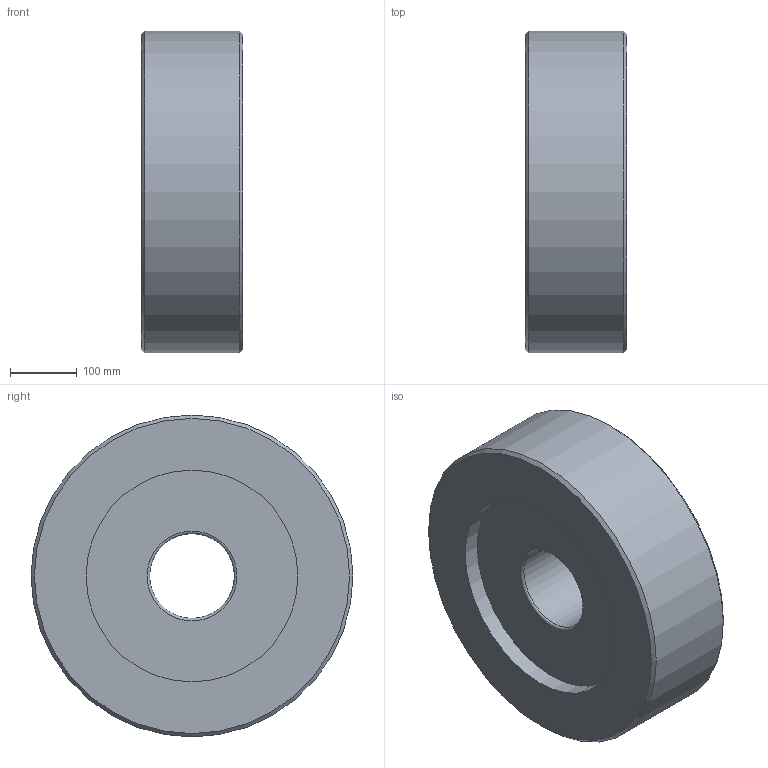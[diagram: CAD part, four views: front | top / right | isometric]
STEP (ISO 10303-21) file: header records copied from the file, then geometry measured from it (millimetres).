
FILE_DESCRIPTION((''),'1');
FILE_NAME('H:/図庫/国内ﾕﾆｯﾄ/ｶﾀﾛｸﾞ/樹脂巻き/ホームページ用ＣＡＤ図面/update用/3D/', '2017-07-13T04:44:02',(''), (''), 'KCM Version 1.1.1442.0', 'Kubotek KeyCreator', '');
FILE_SCHEMA(('AUTOMOTIVE_DESIGN'));
Length unit declared in the file: inch
Bounding box: 152.4 x 482.6 x 482.6 mm (x, y, z)
Surface area: 652390.8 mm2 (no closed solid volume)
Topology: 0 solids, 12 shells, 12 faces, 40 edges, 32 vertices
Faces by surface type: plane 4, cylinder 4, torus 2, cone 2
Full cylindrical faces by diameter (mm): 127 x1, 317.5 x2, 482.6 x1
Entity records: 476 total; most frequent: DIRECTION 92, CARTESIAN_POINT 81, ORIENTED_EDGE 48, AXIS2_PLACEMENT_3D 43, EDGE_CURVE 40, VERTEX_POINT 32, CIRCLE 30, EDGE_LOOP 16
